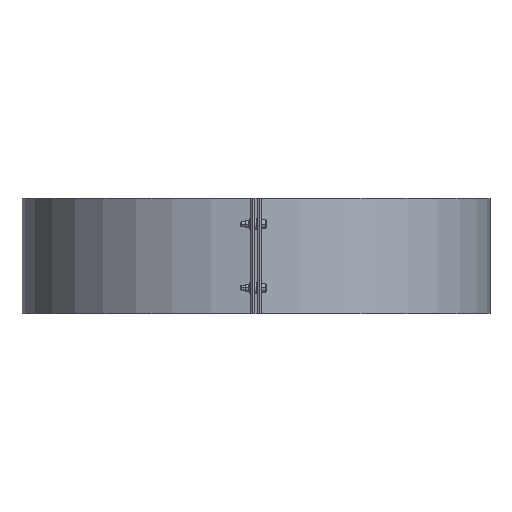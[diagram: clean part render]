
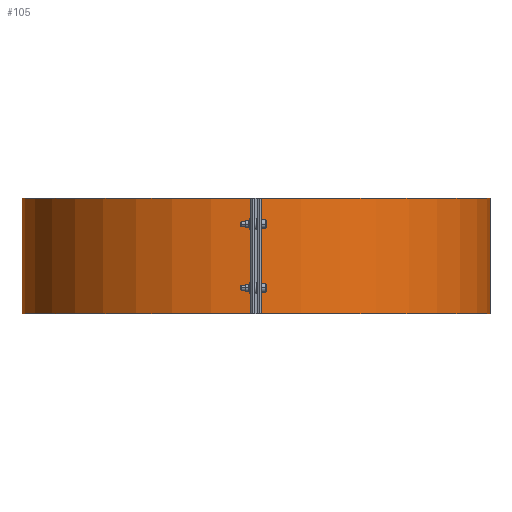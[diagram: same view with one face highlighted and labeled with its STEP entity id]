
A CAD part, front view. The second image highlights one B-rep face of the part: STEP entity #105.
In plain terms, the highlighted cylindrical face has radius 183 mm (diameter 366 mm), a partial arc.
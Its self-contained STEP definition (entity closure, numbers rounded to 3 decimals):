
#32 = CIRCLE ( 'NONE', #5847, 183. ) ;
#105 = ADVANCED_FACE ( 'NONE', ( #1373 ), #923, .T. ) ;
#222 = DIRECTION ( 'NONE',  ( -1., 0., 0. ) ) ;
#500 = CARTESIAN_POINT ( 'NONE',  ( 0., 0., -90. ) ) ;
#507 = EDGE_CURVE ( 'NONE', #1490, #1374, #4869, .T. ) ;
#923 = CYLINDRICAL_SURFACE ( 'NONE', #2696, 183. ) ;
#1098 = ORIENTED_EDGE ( 'NONE', *, *, #507, .F. ) ;
#1139 = EDGE_LOOP ( 'NONE', ( #1888, #1098, #5534, #2410 ) ) ;
#1191 = VERTEX_POINT ( 'NONE', #2551 ) ;
#1323 = CIRCLE ( 'NONE', #5939, 183. ) ;
#1373 = FACE_OUTER_BOUND ( 'NONE', #1139, .T. ) ;
#1374 = VERTEX_POINT ( 'NONE', #4984 ) ;
#1490 = VERTEX_POINT ( 'NONE', #5226 ) ;
#1610 = DIRECTION ( 'NONE',  ( 0., 0., 1. ) ) ;
#1888 = ORIENTED_EDGE ( 'NONE', *, *, #3438, .T. ) ;
#2074 = LINE ( 'NONE', #5738, #4204 ) ;
#2366 = DIRECTION ( 'NONE',  ( 0., 0., -1. ) ) ;
#2410 = ORIENTED_EDGE ( 'NONE', *, *, #2935, .T. ) ;
#2551 = CARTESIAN_POINT ( 'NONE',  ( 182.967, -3.481, 0. ) ) ;
#2696 = AXIS2_PLACEMENT_3D ( 'NONE', #5643, #2950, #2971 ) ;
#2859 = DIRECTION ( 'NONE',  ( -1., 0., 0. ) ) ;
#2866 = EDGE_CURVE ( 'NONE', #5621, #1490, #32, .T. ) ;
#2935 = EDGE_CURVE ( 'NONE', #5621, #1191, #2074, .T. ) ;
#2950 = DIRECTION ( 'NONE',  ( 0., 0., 1. ) ) ;
#2971 = DIRECTION ( 'NONE',  ( 1., 0., 0. ) ) ;
#3021 = CARTESIAN_POINT ( 'NONE',  ( 0., 0., 0. ) ) ;
#3090 = VECTOR ( 'NONE', #4591, 1000. ) ;
#3107 = DIRECTION ( 'NONE',  ( 0., 0., -1. ) ) ;
#3438 = EDGE_CURVE ( 'NONE', #1191, #1374, #1323, .T. ) ;
#3529 = CARTESIAN_POINT ( 'NONE',  ( 182.967, 3.481, -90. ) ) ;
#4113 = CARTESIAN_POINT ( 'NONE',  ( 182.967, -3.481, -90. ) ) ;
#4204 = VECTOR ( 'NONE', #1610, 1000. ) ;
#4591 = DIRECTION ( 'NONE',  ( 0., 0., 1. ) ) ;
#4869 = LINE ( 'NONE', #3529, #3090 ) ;
#4984 = CARTESIAN_POINT ( 'NONE',  ( 182.967, 3.481, 0. ) ) ;
#5226 = CARTESIAN_POINT ( 'NONE',  ( 182.967, 3.481, -90. ) ) ;
#5534 = ORIENTED_EDGE ( 'NONE', *, *, #2866, .F. ) ;
#5621 = VERTEX_POINT ( 'NONE', #4113 ) ;
#5643 = CARTESIAN_POINT ( 'NONE',  ( 0., 0., -90. ) ) ;
#5738 = CARTESIAN_POINT ( 'NONE',  ( 182.967, -3.481, -90. ) ) ;
#5847 = AXIS2_PLACEMENT_3D ( 'NONE', #500, #2366, #2859 ) ;
#5939 = AXIS2_PLACEMENT_3D ( 'NONE', #3021, #3107, #222 ) ;
